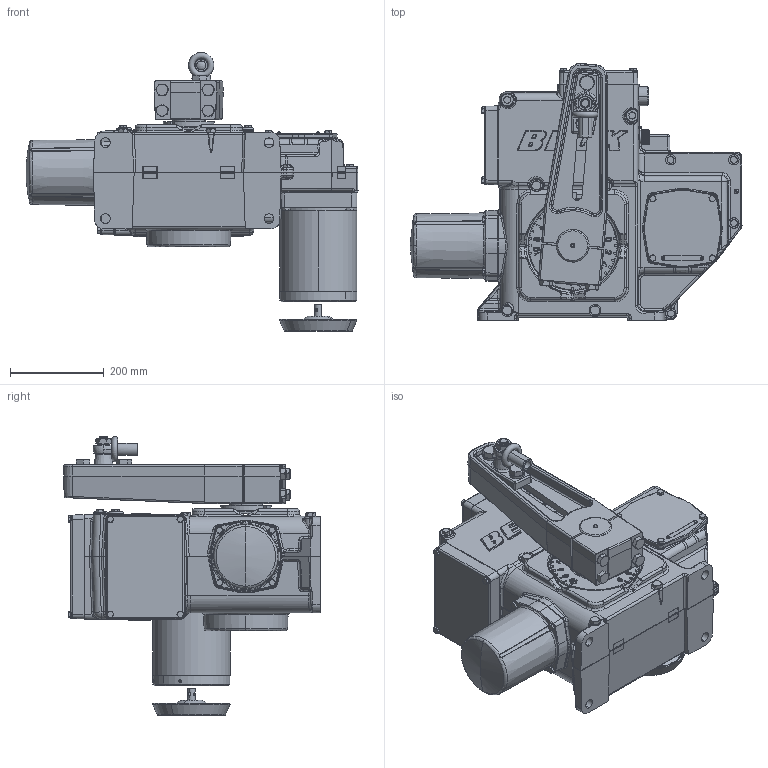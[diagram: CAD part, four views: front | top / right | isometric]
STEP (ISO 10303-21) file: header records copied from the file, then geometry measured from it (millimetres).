
FILE_DESCRIPTION (( 'STEP AP203' ), '1' );
FILE_NAME ('18-0400-01.STEP', '2011-05-02T15:45:02', ( '' ), ( '' ), 'SwSTEP 2.0', 'SolidWorks 2009', '' );
FILE_SCHEMA (( 'CONFIG_CONTROL_DESIGN' ));
Length unit declared in the file: inch
Products named in the file (1): 18-0400-01
Bounding box: 708.29 x 548.2 x 594.73 mm (x, y, z)
Surface area: 1776937.8 mm2 (no closed solid volume)
Topology: 0 solids, 136 shells, 2349 faces, 8613 edges, 6121 vertices
Faces by surface type: plane 765, cylinder 714, bspline 383, cone 266, torus 178, sphere 43
Entity records: 179951 total; most frequent: CARTESIAN_POINT 112992, ORIENTED_EDGE 12977, DIRECTION 12893, EDGE_CURVE 8561, VERTEX_POINT 6114, AXIS2_PLACEMENT_3D 4655, LINE 3583, VECTOR 3583
